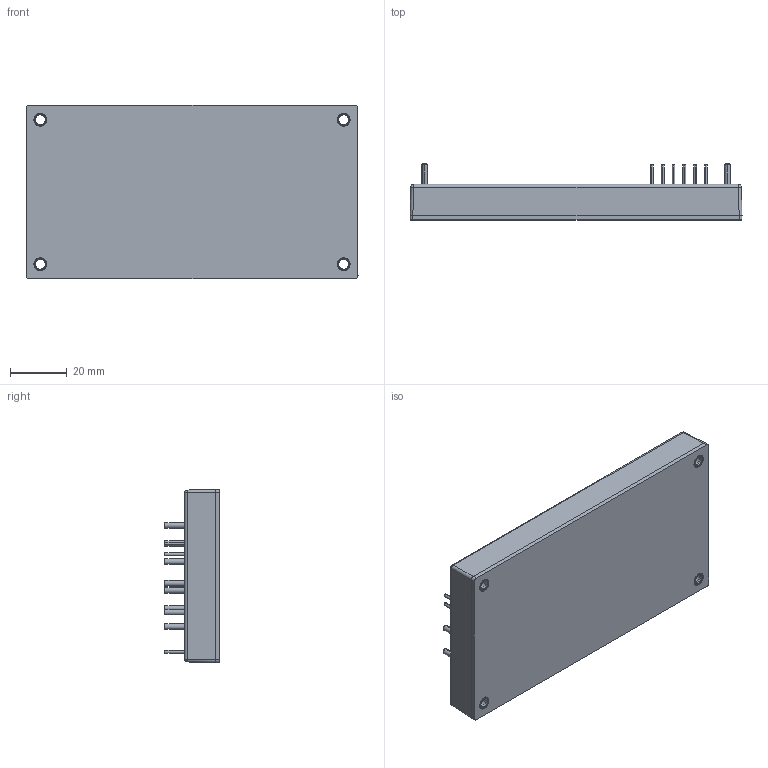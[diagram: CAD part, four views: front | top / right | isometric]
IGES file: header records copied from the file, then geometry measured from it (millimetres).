
Start section: SolidWorks IGES file using analytic representation for surfaces
Global section: file name: C:\Users\cdavies\Desktop\RDH600\RDH600.IGS; native system: SolidWorks 2017; preprocessor: SolidWorks 2017; author: cdavies; date: 180712.120029; units: millimetre
Bounding box: 116.8 x 19.7 x 61 mm (x, y, z)
Surface area: 55224.1 mm2 (no closed solid volume)
Topology: 0 solids, 0 shells, 1283 faces, 12327 edges, 12327 vertices
Faces by surface type: bspline 867, revolution 416
